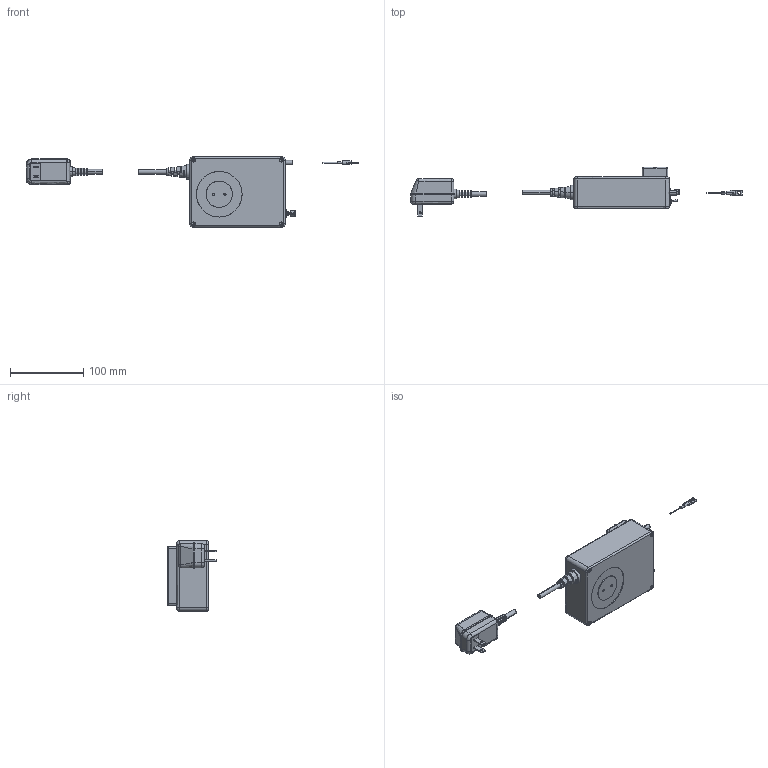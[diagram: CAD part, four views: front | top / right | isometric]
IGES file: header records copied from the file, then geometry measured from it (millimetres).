
Start section: SolidWorks IGES file using analytic representation for surfaces
Bounding box: 452.33 x 67.41 x 96 mm (x, y, z)
Surface area: 89878.3 mm2 (no closed solid volume)
Topology: 0 solids, 0 shells, 1037 faces, 11951 edges, 11943 vertices
Faces by surface type: bspline 531, revolution 506
